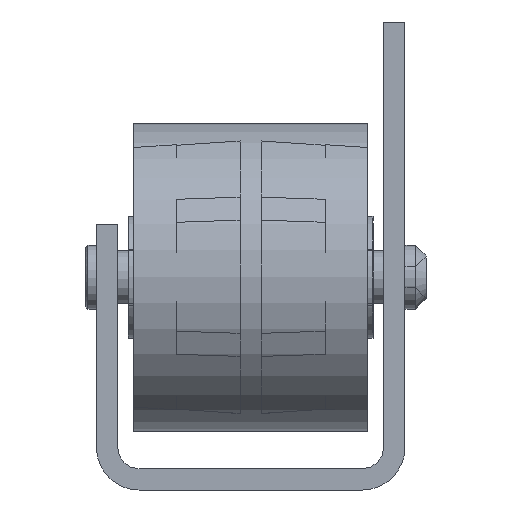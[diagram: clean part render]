
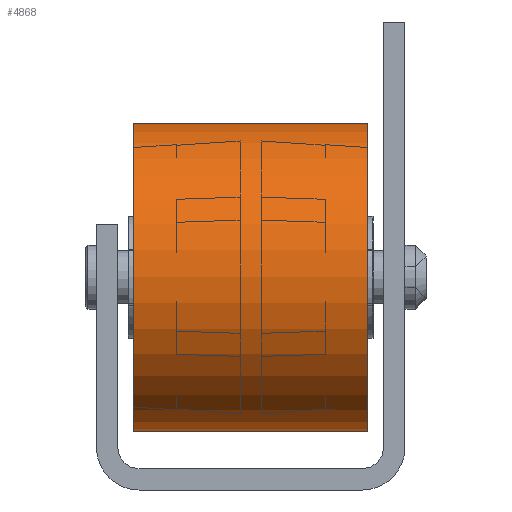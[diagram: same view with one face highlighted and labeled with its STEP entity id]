
A CAD part, front view. The second image highlights one B-rep face of the part: STEP entity #4868.
In plain terms, the highlighted cylindrical face has radius 14.5 mm (diameter 29 mm), a full revolution.
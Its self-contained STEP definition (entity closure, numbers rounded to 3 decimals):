
#694=CYLINDRICAL_SURFACE('',#5506,14.5);
#1063=CIRCLE('',#5505,14.5);
#1064=CIRCLE('',#5507,14.5);
#1904=ORIENTED_EDGE('',*,*,#2537,.T.);
#1905=ORIENTED_EDGE('',*,*,#2536,.F.);
#2536=EDGE_CURVE('',#2999,#2999,#1063,.T.);
#2537=EDGE_CURVE('',#3000,#3000,#1064,.T.);
#2999=VERTEX_POINT('',#8396);
#3000=VERTEX_POINT('',#8399);
#3854=EDGE_LOOP('',(#1904));
#3855=EDGE_LOOP('',(#1905));
#4558=FACE_BOUND('',#3854,.T.);
#4559=FACE_BOUND('',#3855,.T.);
#4868=ADVANCED_FACE('',(#4558,#4559),#694,.T.);
#5505=AXIS2_PLACEMENT_3D('',#8395,#6861,#6862);
#5506=AXIS2_PLACEMENT_3D('',#8397,#6863,#6864);
#5507=AXIS2_PLACEMENT_3D('',#8398,#6865,#6866);
#6861=DIRECTION('',(-1.,0.,0.));
#6862=DIRECTION('',(0.,0.,1.));
#6863=DIRECTION('',(-1.,0.,0.));
#6864=DIRECTION('',(0.,0.,1.));
#6865=DIRECTION('',(-1.,0.,0.));
#6866=DIRECTION('',(0.,0.,1.));
#8395=CARTESIAN_POINT('',(-11.,0.,0.));
#8396=CARTESIAN_POINT('',(-11.,0.,14.5));
#8397=CARTESIAN_POINT('',(-60.,0.,0.));
#8398=CARTESIAN_POINT('',(11.,0.,0.));
#8399=CARTESIAN_POINT('',(11.,0.,14.5));
